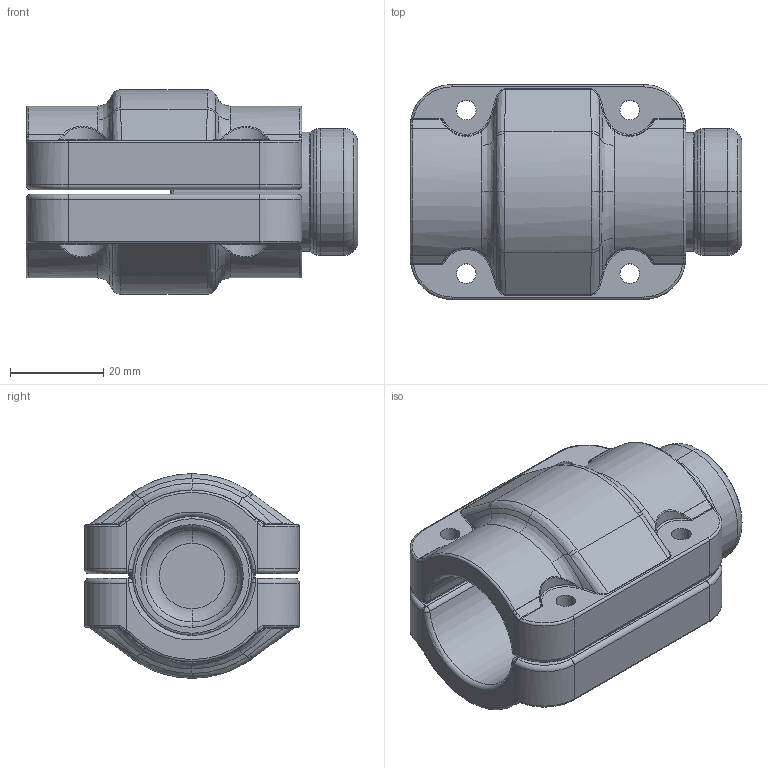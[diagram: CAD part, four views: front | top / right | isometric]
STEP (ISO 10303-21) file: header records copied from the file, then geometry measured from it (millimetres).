
FILE_DESCRIPTION((''),'2;1');
FILE_NAME('2015200699_ASM_3_ASM','2017-05-15T',('Administrator'),(''),'PRO/ENGINEER BY PARAMETRIC TECHNOLOGY CORPORATION, 2009360','PRO/ENGINEER BY PARAMETRIC TECHNOLOGY CORPORATION, 2009360','');
FILE_SCHEMA(('AUTOMOTIVE_DESIGN_CC2 { 1 2 10303 214 -1 1 5 2 }'));
Length unit declared in the file: millimetre
Products named in the file (5): 2015200600_5; 201520020000_23_1; 201520020001_10_1; 2015200200_ASM_1_ASM; 2015200699_ASM_3_ASM
Assembly tree (4 placements, depth 3):
  2015200699_ASM_3_ASM
    2015200600_5
    2015200200_ASM_1_ASM
      201520020000_23_1
      201520020001_10_1
Bounding box: 71 x 46 x 43.8 mm (x, y, z)
Volume: 59070.2 mm3; surface area: 23828.8 mm2
Topology: 3 solids, 3 shells, 343 faces, 806 edges, 462 vertices
Faces by surface type: bspline 144, cylinder 102, torus 56, plane 31, sphere 8, cone 2
Entity records: 17345 total; most frequent: CARTESIAN_POINT 8054, ORIENTED_EDGE 1596, DIRECTION 1172, PRESENTATION_STYLE_ASSIGNMENT 801, STYLED_ITEM 801, CURVE_STYLE 798, EDGE_CURVE 798, AXIS2_PLACEMENT_3D 506
